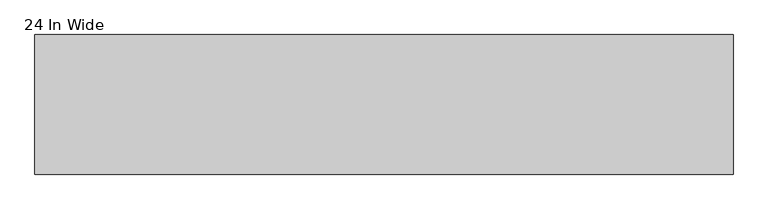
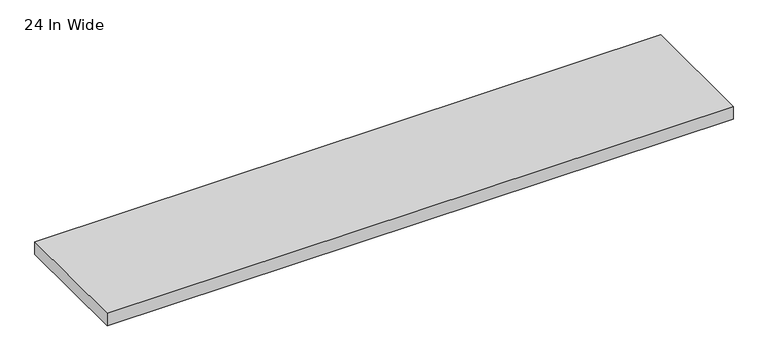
"""IFC4 building model written with IfcOpenShell, lengths in millimetres: proxy geometry, Header_Duct-Walkercell-Wiremold : 24 In Wide."""

import ifcopenshell
import ifcopenshell.guid

model = None  # the IFC model being written
_history = None  # IfcOwnerHistory: only IFC2X3 demands one
_inside = {}  # id of a spatial element -> (the spatial element, [elements in it])
_under = {}  # id of a project, library or spatial element -> (it, [spatial elements below it])
_declared = {}  # id of a project -> (the project, [libraries it declares])
_typed = {}  # id of a type object -> (the type object, [elements of that type])
_made_of = {}  # id of a material, layer set ... -> (it, [elements and type objects made of it])


def new_model(schema):
    """Start an empty IFC model of exactly this schema.

    Asked for "IFC4X3", IfcOpenShell would pick the latest addendum, in which some entities
    have other attributes; the version numbers below select the first issue.
    IFC2X3 requires an IfcOwnerHistory on every rooted entity: one is made here for all.
    """
    global model, _history
    if schema == "IFC4X3":
        model = ifcopenshell.file(schema_version=(4, 3, 0, 0))
    else:
        model = ifcopenshell.file(schema=schema)
    _inside.clear()
    _under.clear()
    _declared.clear()
    _typed.clear()
    _made_of.clear()
    _history = None
    if model.schema == "IFC2X3":
        org = make("IfcOrganization", Name="unknown")
        user = make(
            "IfcPersonAndOrganization",
            ThePerson=make("IfcPerson", FamilyName="unknown"),
            TheOrganization=org,
        )
        app = make(
            "IfcApplication",
            ApplicationDeveloper=org,
            Version="unknown",
            ApplicationFullName="unknown",
            ApplicationIdentifier="unknown",
        )
        _history = make(
            "IfcOwnerHistory",
            OwningUser=user,
            OwningApplication=app,
            ChangeAction="ADDED",
            CreationDate=0,
        )
    return model


def make(cls, **values):
    """One entity of the class cls with the attributes given. An attribute that is None is left unset."""
    return model.create_entity(
        cls, **{name: value for name, value in values.items() if value is not None}
    )


def rooted(cls, **values):
    """An entity with a GlobalId (a new one), such as an element, a storey or a relation."""
    return make(cls, GlobalId=ifcopenshell.guid.new(), OwnerHistory=_history, **values)


def si_unit(unit_type, name, prefix=None):
    """IfcSIUnit, for example si_unit("LENGTHUNIT", "METRE", prefix="MILLI")."""
    return make("IfcSIUnit", UnitType=unit_type, Prefix=prefix, Name=name)


def assignment(units):
    """IfcUnitAssignment: the units of a project."""
    return None if units is None else make("IfcUnitAssignment", Units=units)


def point(xyz):
    """IfcCartesianPoint."""
    return None if xyz is None else make("IfcCartesianPoint", Coordinates=xyz)


def direction(xyz):
    """IfcDirection."""
    return None if xyz is None else make("IfcDirection", DirectionRatios=xyz)


def frame(location, z_axis=None, x_axis=None):
    """IfcAxis2Placement3D, a coordinate frame: its origin and axes. An axis left out is left unset."""
    return make(
        "IfcAxis2Placement3D",
        Location=point(location),
        Axis=direction(z_axis),
        RefDirection=direction(x_axis),
    )


def origin():
    """The frame at (0, 0, 0) with its axes left unset."""
    return frame((0.0, 0.0, 0.0))


def place(relative_to, where):
    """IfcLocalPlacement: puts the frame where relative to a parent placement (None: the world)."""
    return make(
        "IfcLocalPlacement", PlacementRelTo=relative_to, RelativePlacement=where
    )


def context(
    kind, dimensions, precision=None, world=None, true_north=None, identifier=None
):
    """IfcGeometricRepresentationContext, for example the 3D "Model" context."""
    return make(
        "IfcGeometricRepresentationContext",
        ContextIdentifier=identifier,
        ContextType=kind,
        CoordinateSpaceDimension=dimensions,
        Precision=precision,
        WorldCoordinateSystem=world,
        TrueNorth=true_north,
    )


def project(units=None, contexts=None):
    """IfcProject with its units and contexts."""
    return rooted(
        "IfcProject",
        Name="project",
        RepresentationContexts=contexts,
        UnitsInContext=assignment(units),
    )


def spatial(cls, under=None, at=None, **own):
    """A site, building, storey or space (cls), placed at a placement, below another one or the project."""
    s = rooted(cls, ObjectPlacement=at, **own)
    if under is not None:
        _under.setdefault(under.id(), (under, []))[1].append(s)
    return s


def polyline(points):
    """IfcPolyline through the points."""
    return make("IfcPolyline", Points=[point(p) for p in points])


def outline(outer, holes=None, kind="AREA"):
    """IfcArbitraryClosedProfileDef: a profile drawn as a closed curve; with holes, ...WithVoids."""
    if holes is None:
        return make("IfcArbitraryClosedProfileDef", ProfileType=kind, OuterCurve=outer)
    return make(
        "IfcArbitraryProfileDefWithVoids",
        ProfileType=kind,
        OuterCurve=outer,
        InnerCurves=holes,
    )


def extrude(swept, where, along, depth):
    """IfcExtrudedAreaSolid: the profile swept, set in the frame where, extruded along a direction by depth."""
    return make(
        "IfcExtrudedAreaSolid",
        SweptArea=swept,
        Position=where,
        ExtrudedDirection=direction(along),
        Depth=depth,
    )


def shape(context_of_items, identifier, shape_type, items):
    """IfcShapeRepresentation: the items that make up one representation, for example the "Body"."""
    return make(
        "IfcShapeRepresentation",
        ContextOfItems=context_of_items,
        RepresentationIdentifier=identifier,
        RepresentationType=shape_type,
        Items=items,
    )


def source(mapping_origin, context_of_items, identifier, shape_type, items):
    """IfcRepresentationMap: a shape defined once, which mapped items show again and again."""
    return make(
        "IfcRepresentationMap",
        MappingOrigin=mapping_origin,
        MappedRepresentation=shape(context_of_items, identifier, shape_type, items),
    )


def transform(
    local_origin,
    x_axis=None,
    y_axis=None,
    z_axis=None,
    scale=None,
    scale2=None,
    scale3=None,
    uniform=True,
):
    """IfcCartesianTransformationOperator3D, or its non-uniform kind. x_axis, y_axis, z_axis: its Axis1, 2, 3."""
    if uniform:
        return make(
            "IfcCartesianTransformationOperator3D",
            Axis1=direction(x_axis),
            Axis2=direction(y_axis),
            LocalOrigin=point(local_origin),
            Scale=scale,
            Axis3=direction(z_axis),
        )
    return make(
        "IfcCartesianTransformationOperator3DnonUniform",
        Axis1=direction(x_axis),
        Axis2=direction(y_axis),
        LocalOrigin=point(local_origin),
        Scale=scale,
        Axis3=direction(z_axis),
        Scale2=scale2,
        Scale3=scale3,
    )


def mapped(mapping_source, mapping_target):
    """IfcMappedItem: shows the shape of a source again, moved by a transform."""
    return make(
        "IfcMappedItem", MappingSource=mapping_source, MappingTarget=mapping_target
    )


def made_of(thing, what):
    """Note that an element or type object is made of a material, layer set ...; save() writes the relation."""
    if what is not None:
        _made_of.setdefault(what.id(), (what, []))[1].append(thing)
    return thing


def element(
    cls,
    number,
    at=None,
    inside=None,
    cuts=None,
    type_object=None,
    material=None,
    context=None,
    identifier="Body",
    shape_type=None,
    held_by="IfcProductDefinitionShape",
    body=None,
    shapes=None,
    **own,
):
    """One element of the class cls, such as IfcWall. Its Tag is "e" and its number.

    at: its placement. inside: the storey or other place that contains it. cuts: it is an
    opening in that element (IfcRelVoidsElement). A single representation is given by context,
    identifier, shape_type and body (its items); several are given by shapes. held_by: the class
    of the entity that holds the representations. save() writes the other relations.
    """
    e = rooted(cls, Tag="e%d" % number, ObjectPlacement=at, **own)
    if body is not None:
        shapes = [shape(context, identifier, shape_type, body)]
    if shapes is not None:
        e.Representation = make(held_by, Representations=shapes)
    if inside is not None:
        _inside.setdefault(inside.id(), (inside, []))[1].append(e)
    if cuts is not None:
        rooted(
            "IfcRelVoidsElement", RelatingBuildingElement=cuts, RelatedOpeningElement=e
        )
    if type_object is not None:
        _typed.setdefault(type_object.id(), (type_object, []))[1].append(e)
    return made_of(e, material)


def aggregate(whole, parts):
    """IfcRelAggregates: a whole, such as a stair, and the parts it consists of."""
    return rooted("IfcRelAggregates", RelatingObject=whole, RelatedObjects=parts)


def save(model, path):
    """Write the relations noted so far, then the file.

    IfcRelAggregates (storeys below a building ...), IfcRelContainedInSpatialStructure (elements
    in a storey), IfcRelDefinesByType, IfcRelAssociatesMaterial and IfcRelDeclares: one each for
    every whole, place, type object, material and project.
    """
    for whole, parts in _under.values():
        aggregate(whole, parts)
    for where, things in _inside.values():
        rooted(
            "IfcRelContainedInSpatialStructure",
            RelatedElements=things,
            RelatingStructure=where,
        )
    for kind, things in _typed.values():
        rooted("IfcRelDefinesByType", RelatedObjects=things, RelatingType=kind)
    for what, things in _made_of.values():
        rooted("IfcRelAssociatesMaterial", RelatedObjects=things, RelatingMaterial=what)
    for by, libraries in _declared.values():
        rooted("IfcRelDeclares", RelatingContext=by, RelatedDefinitions=libraries)
    model.write(path)


def proxy_24_in_wide_57ae7d76(model_context):
    return source(origin(), model_context, "Body", "SweptSolid", [
        extrude(outline(polyline([(3048.0, 304.8), (3048.0, -304.8), (0.0, -304.8), (0.0, 304.8), (3048.0, 304.8)])), frame((0.0, 0.0, -63.5), z_axis=(0.0, 0.0, 1.0), x_axis=(1.0, 0.0, 0.0)), (0.0, 0.0, 1.0), 63.5),
    ])


if __name__ == "__main__":
    model = new_model("IFC4")
    model_context = context("Model", 3, world=origin())
    ifc_project = project(units=[si_unit("LENGTHUNIT", "METRE", prefix="MILLI")], contexts=[model_context])
    site = spatial("IfcSite", under=ifc_project)
    building = spatial("IfcBuilding", under=site)
    placement = place(None, origin())
    proxy_24_in_wide_shape = proxy_24_in_wide_57ae7d76(model_context)
    element("IfcBuildingElementProxy", 1, Name="Header_Duct-Walkercell-Wiremold : 24 In Wide", ObjectType="Header_Duct-Walkercell-Wiremold : 24 In Wide", at=placement, inside=building, context=model_context, shape_type="MappedRepresentation", body=[
        mapped(proxy_24_in_wide_shape, transform((0.0, 0.0, 0.0), x_axis=(1.0, 0.0, 0.0), y_axis=(0.0, 1.0, 0.0), z_axis=(0.0, 0.0, 1.0))),
    ])
    save(model, "model.ifc")
